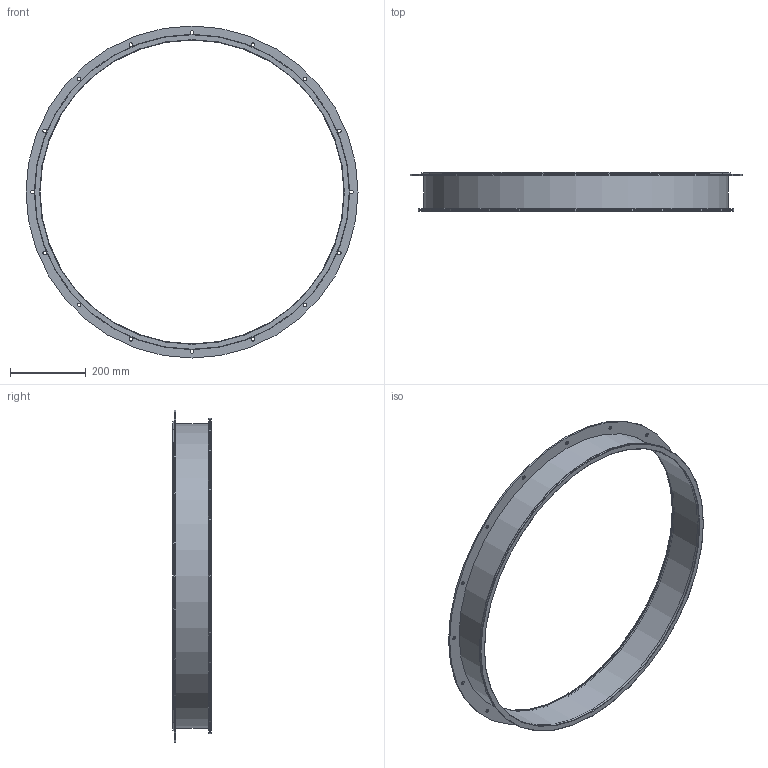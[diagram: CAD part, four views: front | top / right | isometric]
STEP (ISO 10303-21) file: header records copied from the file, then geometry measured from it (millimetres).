
FILE_DESCRIPTION(/* description */ (''),/* implementation_level */ '2;1');
FILE_NAME(/* name */ 'METU_EA115-41D_800_L100.stp',/* time_stamp */ '2018-10-10T16:38:43+02:00',/* author */ (''),/* organization */ (''),/* preprocessor_version */ 'ST-DEVELOPER v11',/* originating_system */ 'SIEMENS UGS NX 6.0',/* authorisation */ '');
FILE_SCHEMA (('CONFIG_CONTROL_DESIGN'));
Length unit declared in the file: millimetre
Products named in the file (1): garsCF17debq
Bounding box: 874 x 101.5 x 874 mm (x, y, z)
Volume: 929233.5 mm3; surface area: 883956.4 mm2
Topology: 3 solids, 3 shells, 40 faces, 109 edges, 78 vertices
Faces by surface type: cylinder 25, plane 9, torus 5, cone 1
Full cylindrical faces by diameter (mm): 9.5 x16, 800 x2, 802 x1, 802.4 x1, 804 x1, 812 x1, 812.4 x1, 830 x1, 874 x1
Entity records: 1122 total; most frequent: DIRECTION 194, CARTESIAN_POINT 153, FACE_BOUND 112, EDGE_LOOP 112, ORIENTED_EDGE 112, AXIS2_PLACEMENT_3D 97, VERTEX_POINT 56, EDGE_CURVE 56
